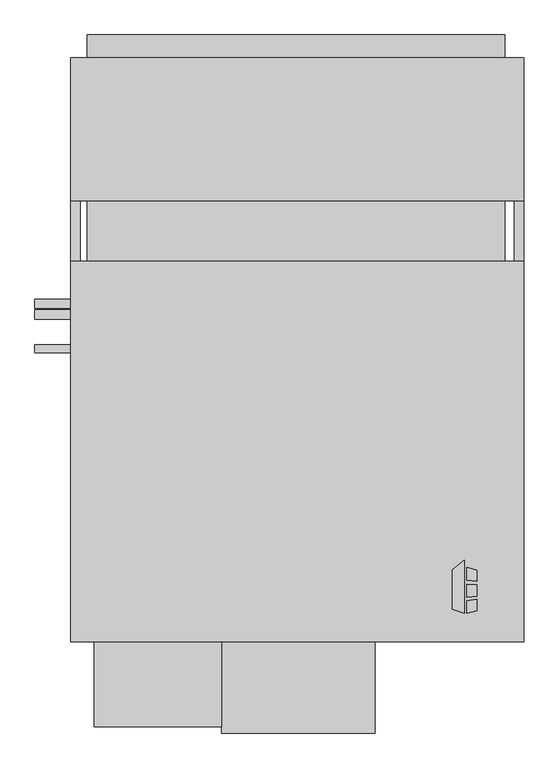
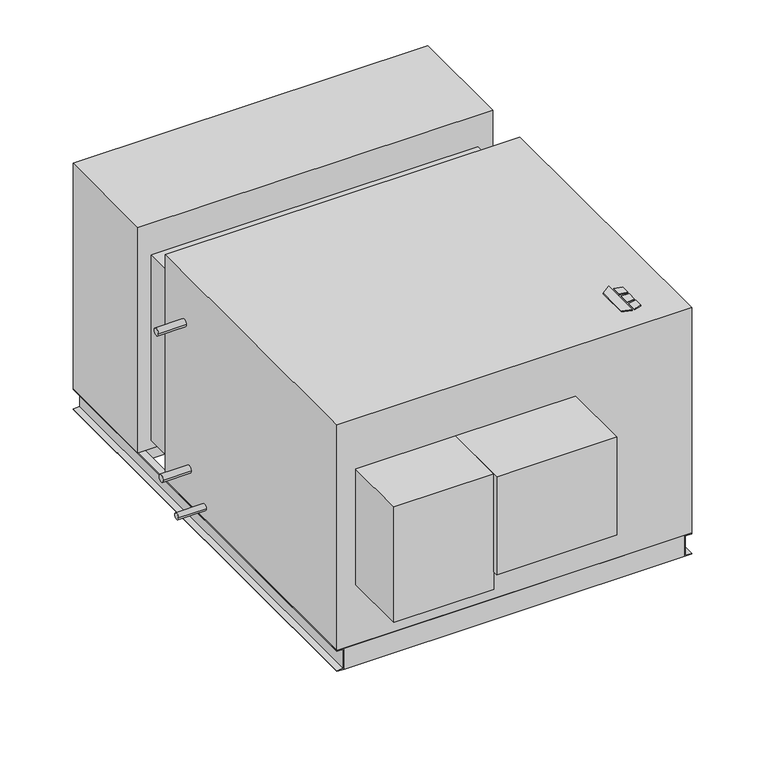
"""IFC4 building model written with IfcOpenShell, lengths in millimetres: proxy geometry, Horizontal_Direct_Drive_Blower_Coil_Unit_-_HDY_-_IEC_-_2-Pipe_Cool-EHeat_NFilterR_W-MixingBox_LH_2022 : Size 30 - 460v/60Hz/3Ph - 8 Row 30.0kW LH."""

from ifc_helpers import new_model, si_unit, point, frame, frame_2d, origin, origin_with_axes, place, context, project, spatial, polyline, circle_curve, trimmed, segment, composite_curve, outline, extrude, source, transform, mapped, element, save


def mechanical_equipment_0cbba81f(model_context):
    return source(origin(), model_context, "Body", "SweptSolid", [
        extrude(outline(polyline([(-39.9980239, -337.5078476), (-7.4397272, -312.0705184), (-7.4397272, -454.025), (-39.9980239, -443.8054201), (-39.9980239, -337.5078476)])), origin_with_axes(), (0.0, 0.0, 1.0), 3.175),
        extrude(outline(polyline([(-0.6813942, -365.379852), (-0.6813942, -330.8999379), (25.4, -339.0865115), (25.4, -368.5822446), (-0.6813942, -365.379852)])), origin_with_axes(), (0.0, 0.0, 1.0), 3.175),
        extrude(outline(polyline([(25.4, -447.0365115), (-0.6813942, -454.025), (-0.6813942, -420.8036996), (25.4, -417.2618564), (25.4, -447.0365115)])), origin_with_axes(), (0.0, 0.0, 1.0), 3.175),
        extrude(outline(polyline([(25.4, -377.6638277), (25.4, -408.913983), (-0.6813942, -411.655248), (-0.6813942, -375.7975378), (25.4, -377.6638277)])), origin_with_axes(), (0.0, 0.0, 1.0), 3.175),
        extrude(outline(polyline([(101.6, 937.895), (101.6, 683.895), (-1022.35, 683.895), (-1022.35, 937.895), (101.6, 937.895)])), frame((0.0, 0.0, -880.11), z_axis=(0.0, 0.0, 1.0), x_axis=(1.0, 0.0, 0.0)), (0.0, 0.0, 1.0), 60.96),
        extrude(outline(polyline([(-1022.35, 1100.455), (101.6, 1100.455), (101.6, 1039.495), (-1022.35, 1039.495), (-1022.35, 1100.455)])), frame((0.0, 0.0, -330.2), z_axis=(0.0, 0.0, 1.0), x_axis=(1.0, 0.0, 0.0)), (0.0, 0.0, 1.0), 254.0),
        extrude(outline(polyline([(152.4, 1039.495), (152.4, 654.05), (-1066.8, 654.05), (-1066.8, 1039.495), (152.4, 1039.495)])), frame((0.0, 0.0, -819.15), z_axis=(0.0, 0.0, 1.0), x_axis=(1.0, 0.0, 0.0)), (0.0, 0.0, 1.0), 819.15),
        extrude(outline(polyline([(127.0, -504.825), (127.0, -530.225), (-1041.4, -530.225), (-1041.4, -504.825), (127.0, -504.825)])), frame((0.0, 0.0, -895.35), z_axis=(0.0, 0.0, 1.0), x_axis=(1.0, 0.0, 0.0)), (0.0, 0.0, 1.0), 76.2),
        extrude(outline(polyline([(127.0, 1039.495), (127.0, 1014.095), (-1041.4, 1014.095), (-1041.4, 1039.495), (127.0, 1039.495)])), frame((0.0, 0.0, -895.35), z_axis=(0.0, 0.0, 1.0), x_axis=(1.0, 0.0, 0.0)), (0.0, 0.0, 1.0), 76.2),
        extrude(outline(polyline([(-819.15, -1041.4), (-819.15, -1066.8), (-822.325, -1066.8), (-822.325, -1044.575), (-892.175, -1044.575), (-892.175, -1066.8), (-895.35, -1066.8), (-895.35, -1041.4), (-819.15, -1041.4)])), frame((0.0, -530.225, 0.0), z_axis=(0.0, 1.0, 0.0), x_axis=(0.0, 0.0, 1.0)), (0.0, 0.0, 1.0), 1569.72),
        extrude(outline(polyline([(-819.15, 127.0), (-895.35, 127.0), (-895.35, 152.4), (-892.175, 152.4), (-892.175, 130.175), (-822.325, 130.175), (-822.325, 152.4), (-819.15, 152.4), (-819.15, 127.0)])), frame((0.0, -530.225, 0.0), z_axis=(0.0, 1.0, 0.0), x_axis=(0.0, 0.0, 1.0)), (0.0, 0.0, 1.0), 1569.72),
        extrude(outline(composite_curve([segment(trimmed(circle_curve(frame_2d((377.825, -177.8)), 12.7), [point((365.125, -177.8))], [point((390.525, -177.8))], False, "CARTESIAN"), True, "CONTINUOUS"), segment(trimmed(circle_curve(frame_2d((377.825, -177.8)), 12.7), [point((390.525, -177.8))], [point((365.125, -177.8))], False, "CARTESIAN"), True, "CONTINUOUS")], self_intersect=False)), frame((-1163.1025559, 0.0, 0.0), z_axis=(1.0, 0.0, 0.0), x_axis=(0.0, 1.0, 0.0)), (0.0, 0.0, 1.0), 96.3025559),
        extrude(outline(composite_curve([segment(trimmed(circle_curve(frame_2d((348.9715397, -692.15)), 12.7), [point((336.2715397, -692.15))], [point((361.6715397, -692.15))], False, "CARTESIAN"), True, "CONTINUOUS"), segment(trimmed(circle_curve(frame_2d((348.9715397, -692.15)), 12.7), [point((361.6715397, -692.15))], [point((336.2715397, -692.15))], False, "CARTESIAN"), True, "CONTINUOUS")], self_intersect=False)), frame((-1163.1025559, 0.0, 0.0), z_axis=(1.0, 0.0, 0.0), x_axis=(0.0, 1.0, 0.0)), (0.0, 0.0, 1.0), 96.3025559),
        extrude(outline(composite_curve([segment(trimmed(circle_curve(frame_2d((257.175, -774.7)), 11.1125), [point((246.0625, -774.7))], [point((268.2875, -774.7))], False, "CARTESIAN"), True, "CONTINUOUS"), segment(trimmed(circle_curve(frame_2d((257.175, -774.7)), 11.1125), [point((268.2875, -774.7))], [point((246.0625, -774.7))], False, "CARTESIAN"), True, "CONTINUOUS")], self_intersect=False)), frame((-1163.1025559, 0.0, 0.0), z_axis=(1.0, 0.0, 0.0), x_axis=(0.0, 1.0, 0.0)), (0.0, 0.0, 1.0), 96.3025559),
        extrude(outline(polyline([(152.4, 492.125), (152.4, -530.225), (-1066.8, -530.225), (-1066.8, 492.125), (152.4, 492.125)])), frame((0.0, 0.0, -819.15), z_axis=(0.0, 0.0, 1.0), x_axis=(1.0, 0.0, 0.0)), (0.0, 0.0, 1.0), 819.15),
        extrude(outline(polyline([(-660.4, -758.825), (-1003.3, -758.825), (-1003.3, -530.225), (-660.4, -530.225), (-660.4, -758.825)])), frame((0.0, 0.0, -600.075), z_axis=(0.0, 0.0, 1.0), x_axis=(1.0, 0.0, 0.0)), (0.0, 0.0, 1.0), 419.1),
        extrude(outline(polyline([(-1022.35, 654.05), (101.6, 654.05), (101.6, 492.125), (-1022.35, 492.125), (-1022.35, 654.05)])), frame((0.0, 0.0, -787.4), z_axis=(0.0, 0.0, 1.0), x_axis=(1.0, 0.0, 0.0)), (0.0, 0.0, 1.0), 673.1),
        extrude(outline(polyline([(-247.65, -776.2875), (-660.4, -776.2875), (-660.4, -530.225), (-247.65, -530.225), (-247.65, -776.2875)])), frame((0.0, 0.0, -536.575), z_axis=(0.0, 0.0, 1.0), x_axis=(1.0, 0.0, 0.0)), (0.0, 0.0, 1.0), 355.6),
    ])


if __name__ == "__main__":
    model = new_model("IFC4")
    model_context = context("Model", 3, world=origin())
    ifc_project = project(units=[si_unit("LENGTHUNIT", "METRE", prefix="MILLI")], contexts=[model_context])
    site = spatial("IfcSite", under=ifc_project)
    building = spatial("IfcBuilding", under=site)
    placement = place(None, origin())
    mechanical_equipment_shape = mechanical_equipment_0cbba81f(model_context)
    element("IfcBuildingElementProxy", 1, Name="Horizontal_Direct_Drive_Blower_Coil_Unit_-_HDY_-_IEC_-_2-Pipe_Cool-EHeat_NFilterR_W-MixingBox_LH_2022 : Size 30 - 460v/60Hz/3Ph - 8 Row 30.0kW LH", ObjectType="Horizontal_Direct_Drive_Blower_Coil_Unit_-_HDY_-_IEC_-_2-Pipe_Cool-EHeat_NFilterR_W-MixingBox_LH_2022 : Size 30 - 460v/60Hz/3Ph - 8 Row 30.0kW LH", at=placement, inside=building, context=model_context, shape_type="MappedRepresentation", body=[
        mapped(mechanical_equipment_shape, transform((0.0, 0.0, 0.0), x_axis=(1.0, 0.0, 0.0), y_axis=(0.0, 1.0, 0.0), z_axis=(0.0, 0.0, 1.0))),
    ])
    save(model, "model.ifc")
